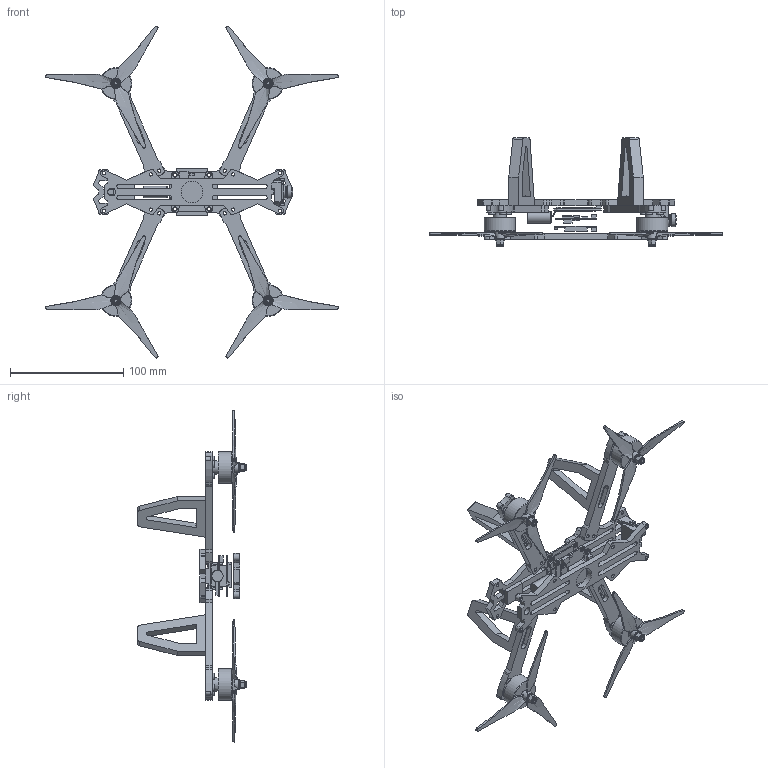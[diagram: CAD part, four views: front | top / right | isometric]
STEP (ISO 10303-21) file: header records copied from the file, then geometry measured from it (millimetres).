
FILE_DESCRIPTION(/* description */ (''),/* implementation_level */ '2;1');
FILE_NAME(/* name */ 'C:/Users/Administrator/Desktop/四旋翼无人机 v1.step',/* time_stamp */ '2022-06-02T09:43:23+08:00',/* author */ (''),/* organization */ (''),/* preprocessor_version */ 'ST-DEVELOPER v19',/* originating_system */ 'Autodesk Translation Framework v11.7.0.108',/* authorisation */ '');
FILE_SCHEMA (('AUTOMOTIVE_DESIGN { 1 0 10303 214 3 1 1 }'));
Products named in the file (10): 四旋翼无人机; 摄像头; 螺旋桨; 螺旋桨 v2(镜像) (2); 螺旋桨 v2(镜像) (3); 螺旋桨 v2(镜像) (2)(镜像); 舵机控制电板; 摄像头与遥控接收电板; 画面图传电板; 遥控天线
Assembly tree (9 placements, depth 2):
  四旋翼无人机
    摄像头
    螺旋桨
    螺旋桨 v2(镜像) (2)
    螺旋桨 v2(镜像) (3)
    螺旋桨 v2(镜像) (2)(镜像)
    舵机控制电板
    摄像头与遥控接收电板
    画面图传电板
    遥控天线
Bounding box: 258.67 x 96 x 293.46 mm (x, y, z)
Volume: 166676.8 mm3; surface area: 106334.5 mm2
Topology: 27 solids, 27 shells, 1295 faces, 3485 edges, 2314 vertices
Faces by surface type: plane 741, cylinder 468, bspline 69, cone 10, torus 7
Full cylindrical faces by diameter (mm): 1 x4, 1.371 x2, 1.623 x16, 3 x40, 3.111 x24, 3.908 x40, 4 x16, 4.2 x4, 5.831 x4, 6.2 x16, 7 x2, 8 x4, 8.5 x4, 9 x4, 10 x2, 10.488 x1, 11.589 x1, 12 x4, 18.868 x2, 28 x4
Entity records: 52485 total; most frequent: CARTESIAN_POINT 19832, ORIENTED_EDGE 6964, DIRECTION 6126, EDGE_CURVE 3482, VERTEX_POINT 2314, LINE 2176, VECTOR 2176, AXIS2_PLACEMENT_3D 1975
